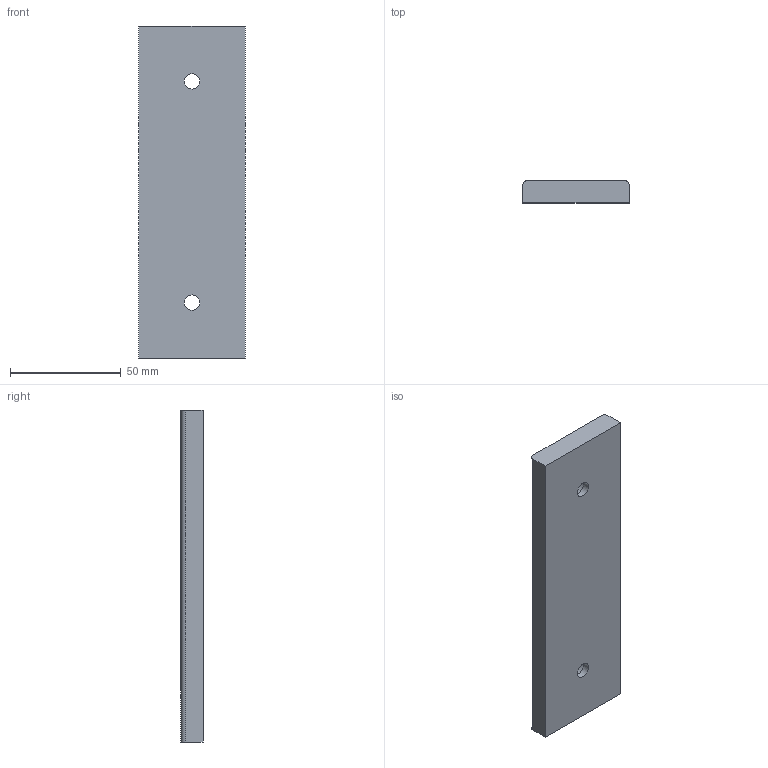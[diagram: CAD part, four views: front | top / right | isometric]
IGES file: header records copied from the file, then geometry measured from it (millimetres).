
Start section: Data from Parasolid IGES Translator 20.0.26, Copyright(c) 2006 Siemens P LM Software. All Rights Reserved.
Global section: file name: G220-01-048-150.igs; native system: By Siemens PLM Incorporated; preprocessor: XPlus GENERIC/IGES 20.0.26; author: Noname; organization: Noname; date: 20190708.082316; units: millimetre
Bounding box: 48 x 10 x 150 mm (x, y, z)
Surface area: 18560.9 mm2 (no closed solid volume)
Topology: 0 solids, 0 shells, 14 faces, 60 edges, 57 vertices
Faces by surface type: extrusion 8, revolution 6
